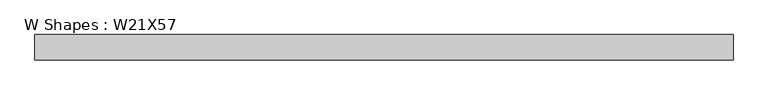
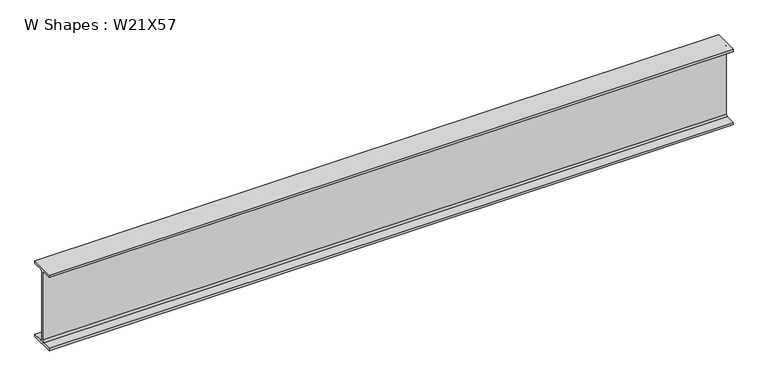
"""IFC4 building model written with IfcOpenShell, lengths in millimetres: beam geometry, W Shapes : W21X57."""

from ifc_helpers import new_model, si_unit, point, frame, frame_2d, origin, place, context, project, spatial, polyline, circle_curve, trimmed, segment, composite_curve, outline, extrude, source, transform, mapped, element, save


def w_shapes_w21x57_65947765(model_context):
    return source(origin(), model_context, "Body", "SweptSolid", [
        extrude(outline(composite_curve([segment(polyline([(83.312, -251.46), (83.312, -267.97), (-83.312, -267.97), (-83.312, -251.46), (-17.8435, -251.46)]), True, "CONTINUOUS"), segment(trimmed(circle_curve(frame_2d((-17.8435, -238.76)), 12.7), [point((-17.8435, -251.46))], [point((-5.1435, -238.76))], True, "CARTESIAN"), True, "CONTINUOUS"), segment(polyline([(-5.1435, -238.76), (-5.1435, 238.76)]), True, "CONTINUOUS"), segment(trimmed(circle_curve(frame_2d((-17.8435, 238.76)), 12.7), [point((-5.1435, 238.76))], [point((-17.8435, 251.46))], True, "CARTESIAN"), True, "CONTINUOUS"), segment(polyline([(-17.8435, 251.46), (-83.312, 251.46), (-83.312, 267.97), (83.312, 267.97), (83.312, 251.46), (17.8435, 251.46)]), True, "CONTINUOUS"), segment(trimmed(circle_curve(frame_2d((17.8435, 238.76)), 12.7), [point((17.8435, 251.46))], [point((5.1435, 238.76))], True, "CARTESIAN"), True, "CONTINUOUS"), segment(polyline([(5.1435, 238.76), (5.1435, -238.76)]), True, "CONTINUOUS"), segment(trimmed(circle_curve(frame_2d((17.8435, -238.76)), 12.7), [point((5.1435, -238.76))], [point((17.8435, -251.46))], True, "CARTESIAN"), True, "CONTINUOUS"), segment(polyline([(17.8435, -251.46), (83.312, -251.46)]), True, "CONTINUOUS")], self_intersect=False)), frame((-2290.439694, 0.0, 0.0), z_axis=(1.0, 0.0, 0.0), x_axis=(0.0, 1.0, 0.0)), (0.0, 0.0, 1.0), 4580.879388),
    ])


if __name__ == "__main__":
    model = new_model("IFC4")
    model_context = context("Model", 3, world=origin())
    ifc_project = project(units=[si_unit("LENGTHUNIT", "METRE", prefix="MILLI")], contexts=[model_context])
    site = spatial("IfcSite", under=ifc_project)
    building = spatial("IfcBuilding", under=site)
    placement = place(None, origin())
    w_shapes_w21x57_shape = w_shapes_w21x57_65947765(model_context)
    element("IfcBeam", 1, ObjectType="W Shapes : W21X57", at=placement, inside=building, context=model_context, shape_type="MappedRepresentation", body=[
        mapped(w_shapes_w21x57_shape, transform((0.0, 0.0, 0.0), x_axis=(1.0, 0.0, 0.0), y_axis=(0.0, 1.0, 0.0), z_axis=(0.0, 0.0, 1.0))),
    ])
    save(model, "model.ifc")
